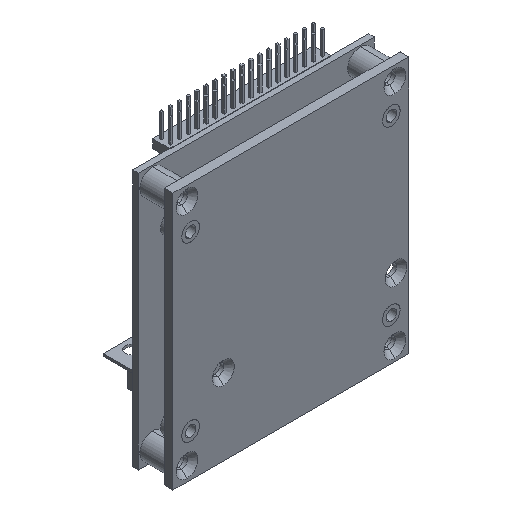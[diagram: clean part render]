
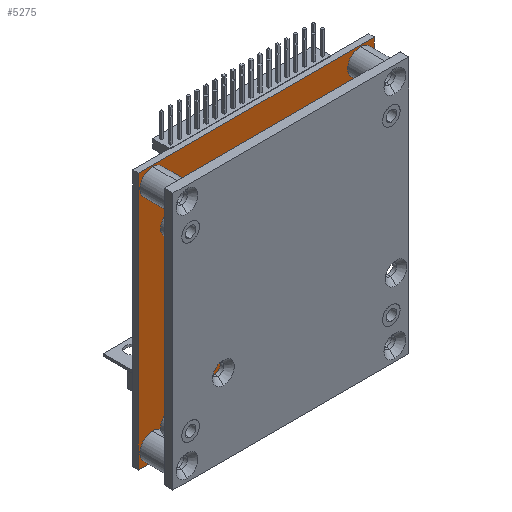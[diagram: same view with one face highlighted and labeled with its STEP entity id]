
A CAD part, isometric view. The second image highlights one B-rep face of the part: STEP entity #5275.
In plain terms, the highlighted planar face has unit normal (0, -1, 0).
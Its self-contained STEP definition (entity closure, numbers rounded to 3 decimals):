
#94 = LINE ( 'NONE', #20009, #2208 ) ;
#161 = CARTESIAN_POINT ( 'NONE',  ( 4., -1.6, -0.4 ) ) ;
#724 = AXIS2_PLACEMENT_3D ( 'NONE', #15364, #6908, #5140 ) ;
#972 = EDGE_LOOP ( 'NONE', ( #15652, #4636 ) ) ;
#1164 = CARTESIAN_POINT ( 'NONE',  ( 63., -1.6, -4. ) ) ;
#1348 = CARTESIAN_POINT ( 'NONE',  ( 67., -1.6, -73. ) ) ;
#1351 = CARTESIAN_POINT ( 'NONE',  ( 0., -1.6, -73. ) ) ;
#1446 = PLANE ( 'NONE',  #6286 ) ;
#1743 = ORIENTED_EDGE ( 'NONE', *, *, #8148, .T. ) ;
#1830 = AXIS2_PLACEMENT_3D ( 'NONE', #4019, #8974, #14212 ) ;
#1917 = EDGE_CURVE ( 'NONE', #2353, #13025, #20630, .T. ) ;
#2208 = VECTOR ( 'NONE', #9970, 1000. ) ;
#2353 = VERTEX_POINT ( 'NONE', #4986 ) ;
#2704 = EDGE_LOOP ( 'NONE', ( #4721, #8750 ) ) ;
#2740 = VECTOR ( 'NONE', #21022, 1000. ) ;
#3027 = VERTEX_POINT ( 'NONE', #13167 ) ;
#3048 = VERTEX_POINT ( 'NONE', #18281 ) ;
#3175 = VERTEX_POINT ( 'NONE', #15027 ) ;
#3329 = ORIENTED_EDGE ( 'NONE', *, *, #9441, .F. ) ;
#3413 = CIRCLE ( 'NONE', #14309, 3.6 ) ;
#3693 = EDGE_CURVE ( 'NONE', #8810, #3048, #94, .T. ) ;
#3849 = ORIENTED_EDGE ( 'NONE', *, *, #14373, .F. ) ;
#4019 = CARTESIAN_POINT ( 'NONE',  ( 63., -1.6, -69. ) ) ;
#4198 = CARTESIAN_POINT ( 'NONE',  ( 63., -1.6, -4. ) ) ;
#4343 = ORIENTED_EDGE ( 'NONE', *, *, #8899, .T. ) ;
#4621 = DIRECTION ( 'NONE',  ( 0., -1., 0. ) ) ;
#4636 = ORIENTED_EDGE ( 'NONE', *, *, #9399, .F. ) ;
#4721 = ORIENTED_EDGE ( 'NONE', *, *, #11605, .F. ) ;
#4927 = AXIS2_PLACEMENT_3D ( 'NONE', #21650, #9398, #17945 ) ;
#4986 = CARTESIAN_POINT ( 'NONE',  ( 63., -1.6, -65.4 ) ) ;
#5044 = CIRCLE ( 'NONE', #724, 3.6 ) ;
#5140 = DIRECTION ( 'NONE',  ( 0., 0., -1. ) ) ;
#5275 = ADVANCED_FACE ( 'NONE', ( #6623, #9048, #20549, #21070, #16857 ), #1446, .T. ) ;
#6286 = AXIS2_PLACEMENT_3D ( 'NONE', #1351, #4621, #6316 ) ;
#6287 = DIRECTION ( 'NONE',  ( 0., 0., -1. ) ) ;
#6316 = DIRECTION ( 'NONE',  ( -1., 0., 0. ) ) ;
#6361 = CARTESIAN_POINT ( 'NONE',  ( 4., -1.6, -7.6 ) ) ;
#6623 = FACE_BOUND ( 'NONE', #21084, .T. ) ;
#6908 = DIRECTION ( 'NONE',  ( 0., -1., 0. ) ) ;
#6949 = CIRCLE ( 'NONE', #21293, 3.6 ) ;
#7224 = AXIS2_PLACEMENT_3D ( 'NONE', #9949, #9425, #10999 ) ;
#8014 = CARTESIAN_POINT ( 'NONE',  ( 63., -1.6, -69. ) ) ;
#8148 = EDGE_CURVE ( 'NONE', #3048, #14427, #10824, .T. ) ;
#8693 = DIRECTION ( 'NONE',  ( 1., 0., 0. ) ) ;
#8750 = ORIENTED_EDGE ( 'NONE', *, *, #11390, .F. ) ;
#8810 = VERTEX_POINT ( 'NONE', #19732 ) ;
#8899 = EDGE_CURVE ( 'NONE', #14427, #21798, #13969, .T. ) ;
#8974 = DIRECTION ( 'NONE',  ( 0., -1., 0. ) ) ;
#9048 = FACE_BOUND ( 'NONE', #972, .T. ) ;
#9153 = VECTOR ( 'NONE', #16852, 1000. ) ;
#9398 = DIRECTION ( 'NONE',  ( 0., -1., 0. ) ) ;
#9399 = EDGE_CURVE ( 'NONE', #13025, #2353, #11232, .T. ) ;
#9425 = DIRECTION ( 'NONE',  ( 0., -1., 0. ) ) ;
#9441 = EDGE_CURVE ( 'NONE', #19070, #10635, #6949, .T. ) ;
#9910 = EDGE_CURVE ( 'NONE', #11380, #20829, #3413, .T. ) ;
#9949 = CARTESIAN_POINT ( 'NONE',  ( 4., -1.6, -4. ) ) ;
#9970 = DIRECTION ( 'NONE',  ( 0., 0., -1. ) ) ;
#10430 = CIRCLE ( 'NONE', #7224, 3.6 ) ;
#10635 = VERTEX_POINT ( 'NONE', #161 ) ;
#10824 = LINE ( 'NONE', #12604, #2740 ) ;
#10999 = DIRECTION ( 'NONE',  ( 0., 0., -1. ) ) ;
#11232 = CIRCLE ( 'NONE', #11406, 3.6 ) ;
#11380 = VERTEX_POINT ( 'NONE', #19868 ) ;
#11390 = EDGE_CURVE ( 'NONE', #3027, #3175, #18981, .T. ) ;
#11406 = AXIS2_PLACEMENT_3D ( 'NONE', #8014, #16672, #16500 ) ;
#11465 = CARTESIAN_POINT ( 'NONE',  ( 67., -1.6, -73. ) ) ;
#11605 = EDGE_CURVE ( 'NONE', #3175, #3027, #5044, .T. ) ;
#11977 = ORIENTED_EDGE ( 'NONE', *, *, #20987, .F. ) ;
#12437 = VECTOR ( 'NONE', #8693, 1000. ) ;
#12544 = AXIS2_PLACEMENT_3D ( 'NONE', #1164, #13195, #6287 ) ;
#12604 = CARTESIAN_POINT ( 'NONE',  ( 0., -1.6, -73. ) ) ;
#13025 = VERTEX_POINT ( 'NONE', #17494 ) ;
#13167 = CARTESIAN_POINT ( 'NONE',  ( 4., -1.6, -72.6 ) ) ;
#13185 = DIRECTION ( 'NONE',  ( 0., -1., 0. ) ) ;
#13195 = DIRECTION ( 'NONE',  ( 0., -1., 0. ) ) ;
#13969 = LINE ( 'NONE', #1348, #9153 ) ;
#14212 = DIRECTION ( 'NONE',  ( 0., 0., -1. ) ) ;
#14309 = AXIS2_PLACEMENT_3D ( 'NONE', #4198, #13185, #14746 ) ;
#14373 = EDGE_CURVE ( 'NONE', #20829, #11380, #19937, .T. ) ;
#14427 = VERTEX_POINT ( 'NONE', #11465 ) ;
#14746 = DIRECTION ( 'NONE',  ( 0., 0., -1. ) ) ;
#15027 = CARTESIAN_POINT ( 'NONE',  ( 4., -1.6, -65.4 ) ) ;
#15364 = CARTESIAN_POINT ( 'NONE',  ( 4., -1.6, -69. ) ) ;
#15455 = ORIENTED_EDGE ( 'NONE', *, *, #3693, .T. ) ;
#15652 = ORIENTED_EDGE ( 'NONE', *, *, #1917, .F. ) ;
#15851 = CARTESIAN_POINT ( 'NONE',  ( 67., -1.6, 0. ) ) ;
#16500 = DIRECTION ( 'NONE',  ( 0., 0., -1. ) ) ;
#16672 = DIRECTION ( 'NONE',  ( 0., -1., 0. ) ) ;
#16852 = DIRECTION ( 'NONE',  ( 0., 0., 1. ) ) ;
#16857 = FACE_OUTER_BOUND ( 'NONE', #20981, .T. ) ;
#17009 = LINE ( 'NONE', #20670, #12437 ) ;
#17494 = CARTESIAN_POINT ( 'NONE',  ( 63., -1.6, -72.6 ) ) ;
#17945 = DIRECTION ( 'NONE',  ( 0., 0., -1. ) ) ;
#18281 = CARTESIAN_POINT ( 'NONE',  ( 0., -1.6, -73. ) ) ;
#18369 = DIRECTION ( 'NONE',  ( 0., 0., -1. ) ) ;
#18375 = CARTESIAN_POINT ( 'NONE',  ( 63., -1.6, -7.6 ) ) ;
#18814 = ORIENTED_EDGE ( 'NONE', *, *, #9910, .F. ) ;
#18981 = CIRCLE ( 'NONE', #4927, 3.6 ) ;
#19070 = VERTEX_POINT ( 'NONE', #6361 ) ;
#19634 = EDGE_CURVE ( 'NONE', #10635, #19070, #10430, .T. ) ;
#19732 = CARTESIAN_POINT ( 'NONE',  ( 0., -1.6, 0. ) ) ;
#19868 = CARTESIAN_POINT ( 'NONE',  ( 63., -1.6, -0.4 ) ) ;
#19937 = CIRCLE ( 'NONE', #12544, 3.6 ) ;
#19995 = DIRECTION ( 'NONE',  ( 0., -1., 0. ) ) ;
#20009 = CARTESIAN_POINT ( 'NONE',  ( 0., -1.6, 0. ) ) ;
#20169 = ORIENTED_EDGE ( 'NONE', *, *, #19634, .F. ) ;
#20549 = FACE_BOUND ( 'NONE', #2704, .T. ) ;
#20630 = CIRCLE ( 'NONE', #1830, 3.6 ) ;
#20670 = CARTESIAN_POINT ( 'NONE',  ( 0., -1.6, 0. ) ) ;
#20829 = VERTEX_POINT ( 'NONE', #18375 ) ;
#20981 = EDGE_LOOP ( 'NONE', ( #15455, #1743, #4343, #11977 ) ) ;
#20987 = EDGE_CURVE ( 'NONE', #8810, #21798, #17009, .T. ) ;
#21022 = DIRECTION ( 'NONE',  ( 1., 0., 0. ) ) ;
#21070 = FACE_BOUND ( 'NONE', #21330, .T. ) ;
#21084 = EDGE_LOOP ( 'NONE', ( #18814, #3849 ) ) ;
#21293 = AXIS2_PLACEMENT_3D ( 'NONE', #21484, #19995, #18369 ) ;
#21330 = EDGE_LOOP ( 'NONE', ( #20169, #3329 ) ) ;
#21484 = CARTESIAN_POINT ( 'NONE',  ( 4., -1.6, -4. ) ) ;
#21650 = CARTESIAN_POINT ( 'NONE',  ( 4., -1.6, -69. ) ) ;
#21798 = VERTEX_POINT ( 'NONE', #15851 ) ;
